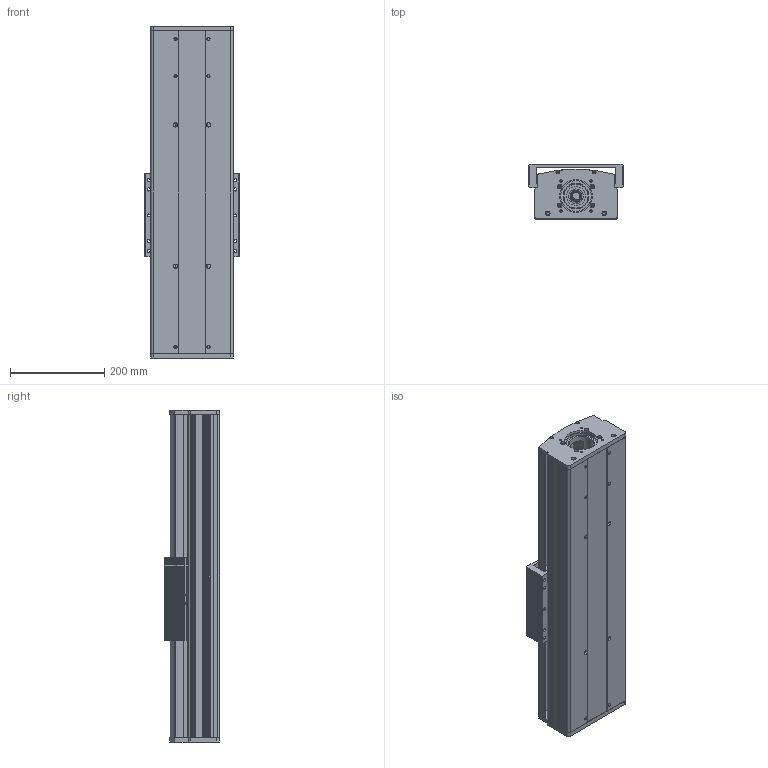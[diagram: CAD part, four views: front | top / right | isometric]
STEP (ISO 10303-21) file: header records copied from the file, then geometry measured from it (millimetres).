
FILE_DESCRIPTION (( 'STEP AP203' ), '1' );
FILE_NAME ('CF175-2-P350.STEP', '2016-02-23T08:35:22', ( 'Sky123.Org' ), ( 'Sky123.Org' ), 'SwSTEP 2.0', 'SolidWorks 2015', '' );
FILE_SCHEMA (( 'CONFIG_CONTROL_DESIGN' ));
Length unit declared in the file: millimetre
Products named in the file (13): Y1-HGR20-1500絳寢; CF-HGH20CA賑輸; CF175-2賑雄啣; SFU2505-4; 175-2梓袧嘐隅釱; X1-SFS2525-1185; 175-2侜督80萇儂釱; 175-2耜啣; CF175-2-P350; 175-2盓傅釱; CF175-2蹟譫釱; Y1-CF175-2-P1200-1547裔啣; Y1-CF175-2-P1200-1547臏倰第
Assembly tree (16 placements, depth 2):
  CF175-2-P350
    CF-HGH20CA賑輸  x4
    SFU2505-4
    X1-SFS2525-1185
    175-2耜啣
    175-2盓傅釱
    CF175-2蹟譫釱
    Y1-CF175-2-P1200-1547裔啣
    Y1-CF175-2-P1200-1547臏倰第
    Y1-HGR20-1500絳寢  x2
    CF175-2賑雄啣
    175-2梓袧嘐隅釱
    175-2侜督80萇儂釱
Bounding box: 200 x 116.8 x 705 mm (x, y, z)
Volume: 6552543.4 mm3; surface area: 1741818.3 mm2
Topology: 22 solids, 22 shells, 1378 faces, 3654 edges, 2420 vertices
Faces by surface type: cylinder 709, plane 645, cone 20, bspline 4
Entity records: 41148 total; most frequent: CARTESIAN_POINT 11056, DIRECTION 6198, ORIENTED_EDGE 5814, EDGE_CURVE 2907, AXIS2_PLACEMENT_3D 2307, VERTEX_POINT 1924, VECTOR 1584, LINE 1584
